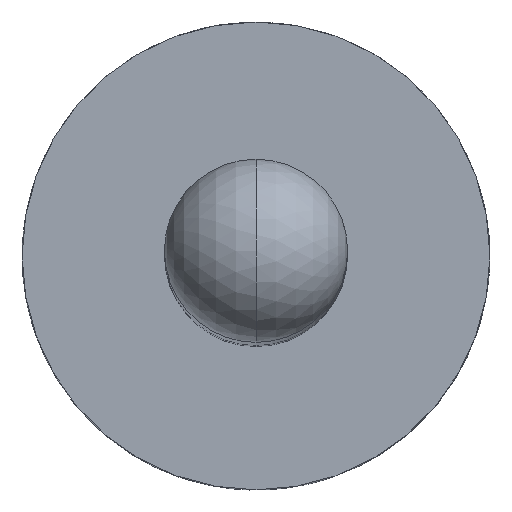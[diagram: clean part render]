
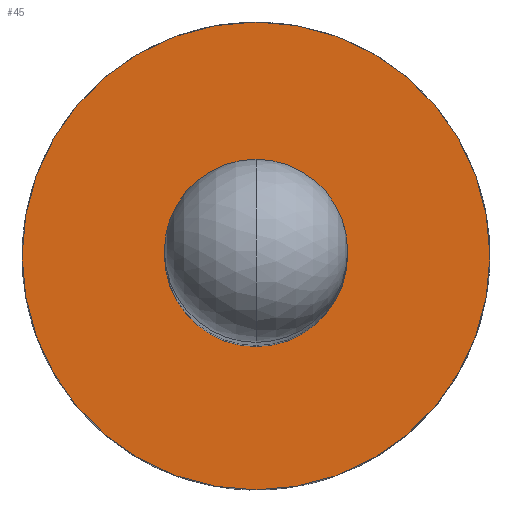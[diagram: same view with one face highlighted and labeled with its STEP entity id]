
A CAD part, top view. The second image highlights one B-rep face of the part: STEP entity #45.
In plain terms, the highlighted planar face has unit normal (0, 0, 1).
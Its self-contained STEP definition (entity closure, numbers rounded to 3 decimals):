
#3 = AXIS2_PLACEMENT_3D ( 'NONE', #610, #1018, #281 ) ;
#45 = ADVANCED_FACE ( 'NONE', ( #1425, #1436 ), #52, .F. ) ;
#52 = PLANE ( 'NONE',  #529 ) ;
#146 = ORIENTED_EDGE ( 'NONE', *, *, #830, .T. ) ;
#186 = CARTESIAN_POINT ( 'NONE',  ( 0., 0., -10.29 ) ) ;
#198 = AXIS2_PLACEMENT_3D ( 'NONE', #186, #1228, #927 ) ;
#262 = VERTEX_POINT ( 'NONE', #482 ) ;
#281 = DIRECTION ( 'NONE',  ( 1., 0., 0. ) ) ;
#377 = DIRECTION ( 'NONE',  ( 0., 0., -1. ) ) ;
#405 = EDGE_LOOP ( 'NONE', ( #552, #1774 ) ) ;
#424 = CIRCLE ( 'NONE', #1225, 1.75 ) ;
#482 = CARTESIAN_POINT ( 'NONE',  ( -1.75, 0., -10.29 ) ) ;
#487 = CARTESIAN_POINT ( 'NONE',  ( 0., 0., -10.29 ) ) ;
#525 = CARTESIAN_POINT ( 'NONE',  ( 0.51, 0., -10.29 ) ) ;
#529 = AXIS2_PLACEMENT_3D ( 'NONE', #1134, #377, #982 ) ;
#544 = CARTESIAN_POINT ( 'NONE',  ( -0.51, 0., -10.29 ) ) ;
#552 = ORIENTED_EDGE ( 'NONE', *, *, #1339, .F. ) ;
#607 = DIRECTION ( 'NONE',  ( 0., 0., 1. ) ) ;
#610 = CARTESIAN_POINT ( 'NONE',  ( 0., 0., -10.29 ) ) ;
#750 = EDGE_CURVE ( 'NONE', #1964, #910, #1575, .T. ) ;
#788 = VERTEX_POINT ( 'NONE', #1074 ) ;
#830 = EDGE_CURVE ( 'NONE', #262, #788, #1223, .T. ) ;
#898 = DIRECTION ( 'NONE',  ( 1., 0., 0. ) ) ;
#910 = VERTEX_POINT ( 'NONE', #525 ) ;
#927 = DIRECTION ( 'NONE',  ( 1., 0., 0. ) ) ;
#982 = DIRECTION ( 'NONE',  ( -1., 0., 0. ) ) ;
#1018 = DIRECTION ( 'NONE',  ( 0., 0., 1. ) ) ;
#1036 = ORIENTED_EDGE ( 'NONE', *, *, #1692, .T. ) ;
#1074 = CARTESIAN_POINT ( 'NONE',  ( 1.75, 0., -10.29 ) ) ;
#1098 = DIRECTION ( 'NONE',  ( 1., 0., 0. ) ) ;
#1134 = CARTESIAN_POINT ( 'NONE',  ( 0., 0.51, -10.29 ) ) ;
#1223 = CIRCLE ( 'NONE', #198, 1.75 ) ;
#1225 = AXIS2_PLACEMENT_3D ( 'NONE', #1370, #1517, #898 ) ;
#1228 = DIRECTION ( 'NONE',  ( 0., 0., 1. ) ) ;
#1339 = EDGE_CURVE ( 'NONE', #910, #1964, #1890, .T. ) ;
#1370 = CARTESIAN_POINT ( 'NONE',  ( 0., 0., -10.29 ) ) ;
#1386 = AXIS2_PLACEMENT_3D ( 'NONE', #487, #607, #1098 ) ;
#1425 = FACE_BOUND ( 'NONE', #405, .T. ) ;
#1436 = FACE_OUTER_BOUND ( 'NONE', #1685, .T. ) ;
#1517 = DIRECTION ( 'NONE',  ( 0., 0., 1. ) ) ;
#1575 = CIRCLE ( 'NONE', #1386, 0.51 ) ;
#1685 = EDGE_LOOP ( 'NONE', ( #1036, #146 ) ) ;
#1692 = EDGE_CURVE ( 'NONE', #788, #262, #424, .T. ) ;
#1774 = ORIENTED_EDGE ( 'NONE', *, *, #750, .F. ) ;
#1890 = CIRCLE ( 'NONE', #3, 0.51 ) ;
#1964 = VERTEX_POINT ( 'NONE', #544 ) ;
